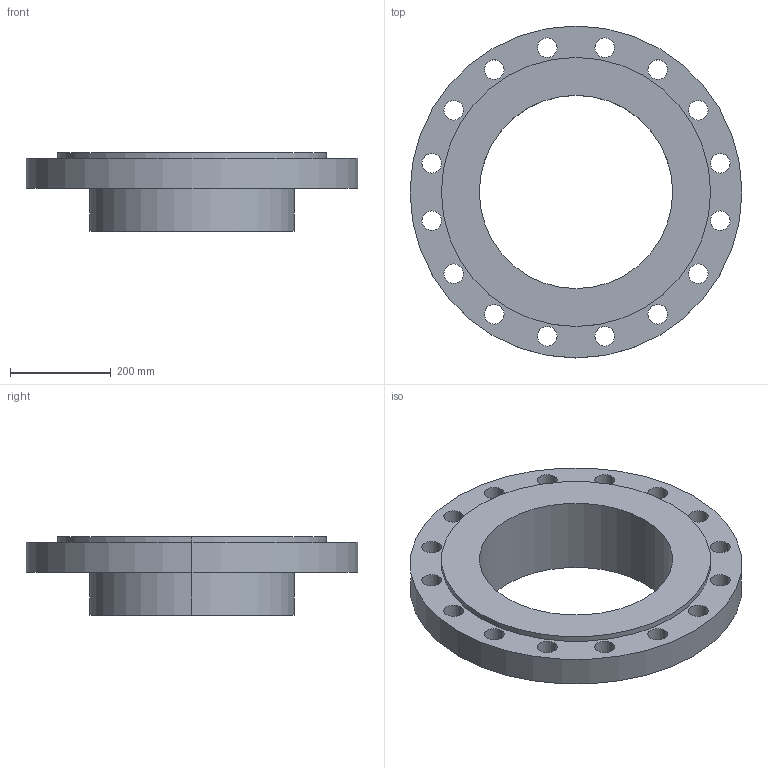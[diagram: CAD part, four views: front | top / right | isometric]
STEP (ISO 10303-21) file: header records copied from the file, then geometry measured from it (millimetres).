
FILE_DESCRIPTION (( 'STEP AP214' ), '1' );
FILE_NAME ('PN40 DN400 Type 02 in 33 - (Type A Face).STEP', '2019-01-05T23:23:05', ( '' ), ( '' ), 'SwSTEP 2.0', 'SolidWorks 2019', '' );
FILE_SCHEMA (( 'AUTOMOTIVE_DESIGN' ));
Length unit declared in the file: millimetre
Products named in the file (1): PN40 DN400 Type 02 in 33 - (Type A Face)
Bounding box: 660 x 660 x 156 mm (x, y, z)
Volume: 14401831.4 mm3; surface area: 1292178.6 mm2
Topology: 2 solids, 2 shells, 51 faces, 134 edges, 88 vertices
Faces by surface type: cylinder 42, plane 5, cone 4
Entity records: 1739 total; most frequent: DIRECTION 326, CARTESIAN_POINT 274, ORIENTED_EDGE 268, AXIS2_PLACEMENT_3D 140, EDGE_CURVE 134, CIRCLE 88, VERTEX_POINT 88, EDGE_LOOP 88
